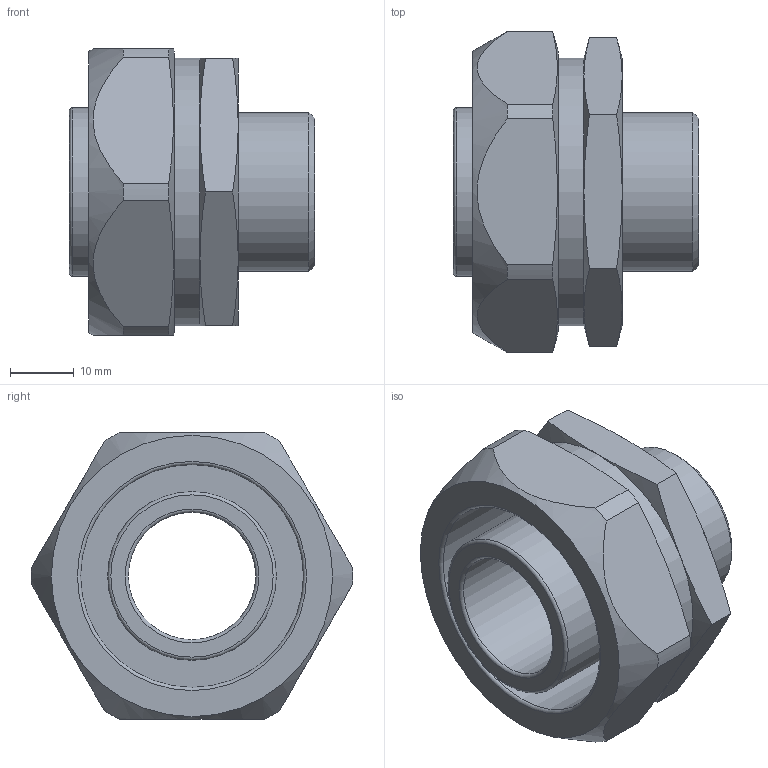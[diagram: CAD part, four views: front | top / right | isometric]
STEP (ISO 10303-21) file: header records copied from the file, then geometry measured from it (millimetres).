
FILE_DESCRIPTION( ( 'STEP AP214' ), '1' );
FILE_NAME( 'p:/temp/worker_10/temp/app_46_02018121420135275813349192d056f_000000_00_00_000000/format_0/6014-2527.stp', '2018-12-14T19:13:53', ( '' ), ( '' ), ' ', 'PARTsolutions', ' ' );
FILE_SCHEMA( ( 'AUTOMOTIVE_DESIGN { 1 0 10303 214 1 1 1 1 }' ) );
Length unit declared in the file: millimetre
Products named in the file (1): _6014-2527
Bounding box: 38.5 x 50.49 x 45 mm (x, y, z)
Volume: 25942.3 mm3; surface area: 13148.9 mm2
Topology: 1 solids, 1 shells, 48 faces, 108 edges, 66 vertices
Faces by surface type: plane 18, cone 16, cylinder 11, torus 3
Full cylindrical faces by diameter (mm): 20 x1, 25 x1, 26.5 x1, 35 x1, 42 x1
Entity records: 1890 total; most frequent: CARTESIAN_POINT 515, DIRECTION 196, ORIENTED_EDGE 188, EDGE_CURVE 94, AXIS2_PLACEMENT_3D 89, EDGE_LOOP 66, VERTEX_POINT 64, FACE_OUTER_BOUND 56
